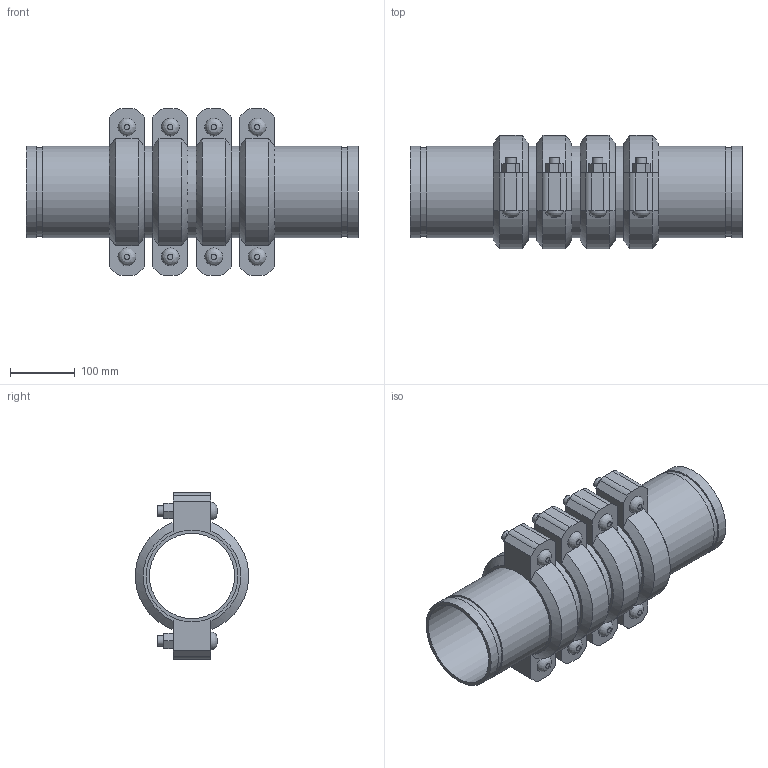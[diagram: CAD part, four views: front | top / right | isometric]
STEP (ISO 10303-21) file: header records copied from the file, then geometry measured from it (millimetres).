
FILE_DESCRIPTION(/* description */ ('VIC EXPANSION JOINT 4 COUPLINGS EXPANDED STYLE 155 (OGS)','CAx-IF Rec.Pracs.---Representation and Presentation of Product Manufacturing Information (PMI)---4.0---2014-10-13'),/* implementation_level */ '2;1');
FILE_NAME(/* name */ 'C:\Users\kkamble\AppData\Roaming\Autodesk\ApplicationPlugins\Victaulic.Temp\A310\Victaulic_IPS_Expansion Joint_Expanded_4 Couplings_Style 155 (OGS)_5 (125).stp',/* time_stamp */ '2021-06-27T00:00:38+02:00',/* author */ ('kkamble'),/* organization */ ('Victaulic'),/* preprocessor_version */ 'ST-DEVELOPER v17.2',/* originating_system */ 'Autodesk Inventor 2019',/* authorisation */ '');
FILE_SCHEMA (('AP242_MANAGED_MODEL_BASED_3D_ENGINEERING_MIM_LF { 1 0 10303 442 1 1 4 }'));
Length unit declared in the file: inch
Products named in the file (4): 155-05.0; Nipple-05.0; Nipple-05.0_1; 075-05.0
Assembly tree (9 placements, depth 2):
  155-05.0
    Nipple-05.0  x2
    Nipple-05.0_1  x3
    075-05.0  x4
Bounding box: 510.79 x 174.16 x 255.78 mm (x, y, z)
Volume: 3702802.4 mm3; surface area: 870713.4 mm2
Topology: 9 solids, 17 shells, 288 faces, 682 edges, 480 vertices
Faces by surface type: plane 174, cylinder 90, cone 16, bspline 8
Full cylindrical faces by diameter (mm): 15.875 x16, 17.424 x8, 130.988 x5, 134.95 x4, 137.033 x10, 141.3 x23
Entity records: 2785 total; most frequent: CARTESIAN_POINT 493, DIRECTION 461, ORIENTED_EDGE 386, EDGE_CURVE 193, AXIS2_PLACEMENT_3D 184, VERTEX_POINT 138, EDGE_LOOP 107, LINE 93
